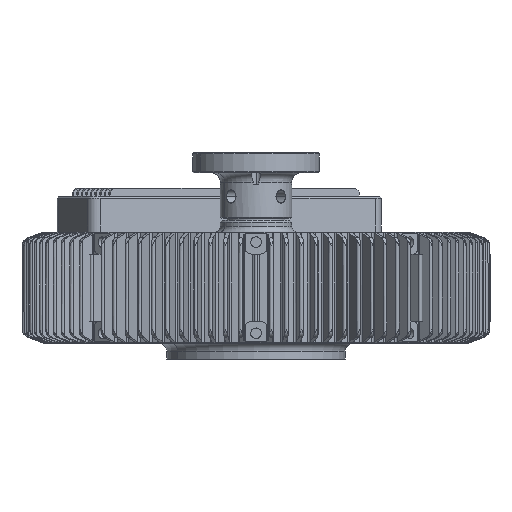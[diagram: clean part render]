
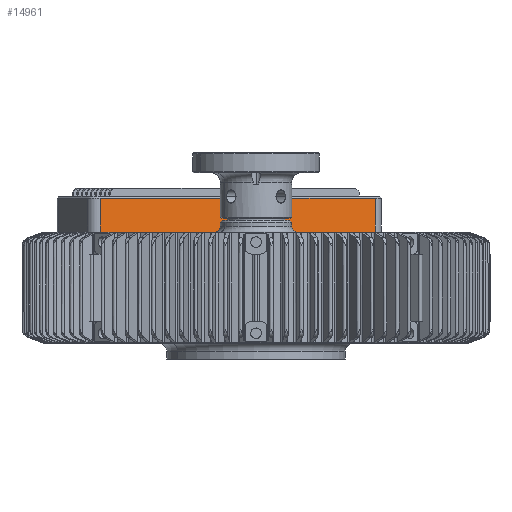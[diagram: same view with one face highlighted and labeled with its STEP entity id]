
A CAD part, front view. The second image highlights one B-rep face of the part: STEP entity #14961.
In plain terms, the highlighted planar face has unit normal (0.383, -0.924, 0).
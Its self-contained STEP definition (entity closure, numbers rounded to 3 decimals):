
#268 = DIRECTION ( 'NONE',  ( 0., 0., -1. ) ) ;
#584 = EDGE_CURVE ( 'NONE', #63381, #45829, #32522, .T. ) ;
#2662 = DIRECTION ( 'NONE',  ( 0., 0., 1. ) ) ;
#3914 = ORIENTED_EDGE ( 'NONE', *, *, #12125, .F. ) ;
#4543 = AXIS2_PLACEMENT_3D ( 'NONE', #34838, #26638, #268 ) ;
#7720 = EDGE_CURVE ( 'NONE', #63381, #34671, #21241, .T. ) ;
#10159 = CARTESIAN_POINT ( 'NONE',  ( 30.053, 25.437, 23.317 ) ) ;
#12125 = EDGE_CURVE ( 'NONE', #59369, #34671, #24228, .T. ) ;
#13739 = VECTOR ( 'NONE', #34316, 1000. ) ;
#14670 = VECTOR ( 'NONE', #47153, 1000. ) ;
#14961 = ADVANCED_FACE ( 'NONE', ( #49459 ), #36682, .T. ) ;
#20259 = ORIENTED_EDGE ( 'NONE', *, *, #31751, .F. ) ;
#21241 = LINE ( 'NONE', #10159, #37855 ) ;
#22254 = CARTESIAN_POINT ( 'NONE',  ( -39.238, -3.264, 24.567 ) ) ;
#23091 = CARTESIAN_POINT ( 'NONE',  ( -39.238, -3.264, 19. ) ) ;
#24228 = LINE ( 'NONE', #28485, #13739 ) ;
#26638 = DIRECTION ( 'NONE',  ( 0.383, -0.924, 0. ) ) ;
#28485 = CARTESIAN_POINT ( 'NONE',  ( -9.102, 9.218, 27.567 ) ) ;
#31335 = DIRECTION ( 'NONE',  ( 0., 0., 1. ) ) ;
#31751 = EDGE_CURVE ( 'NONE', #45829, #59369, #47267, .T. ) ;
#32522 = LINE ( 'NONE', #23091, #14670 ) ;
#34316 = DIRECTION ( 'NONE',  ( 0.924, 0.383, 0. ) ) ;
#34671 = VERTEX_POINT ( 'NONE', #61706 ) ;
#34707 = VECTOR ( 'NONE', #2662, 1000. ) ;
#34838 = CARTESIAN_POINT ( 'NONE',  ( -39.238, -3.264, 19.067 ) ) ;
#36682 = PLANE ( 'NONE',  #4543 ) ;
#37855 = VECTOR ( 'NONE', #31335, 1000. ) ;
#45829 = VERTEX_POINT ( 'NONE', #50172 ) ;
#47153 = DIRECTION ( 'NONE',  ( -0.924, -0.383, 0. ) ) ;
#47267 = LINE ( 'NONE', #22254, #34707 ) ;
#49459 = FACE_OUTER_BOUND ( 'NONE', #52091, .T. ) ;
#50172 = CARTESIAN_POINT ( 'NONE',  ( -39.238, -3.264, 19. ) ) ;
#52091 = EDGE_LOOP ( 'NONE', ( #63649, #63759, #3914, #20259 ) ) ;
#59072 = CARTESIAN_POINT ( 'NONE',  ( -39.238, -3.264, 27.567 ) ) ;
#59369 = VERTEX_POINT ( 'NONE', #59072 ) ;
#60389 = CARTESIAN_POINT ( 'NONE',  ( 30.053, 25.437, 19. ) ) ;
#61706 = CARTESIAN_POINT ( 'NONE',  ( 30.053, 25.437, 27.567 ) ) ;
#63381 = VERTEX_POINT ( 'NONE', #60389 ) ;
#63649 = ORIENTED_EDGE ( 'NONE', *, *, #584, .F. ) ;
#63759 = ORIENTED_EDGE ( 'NONE', *, *, #7720, .T. ) ;
